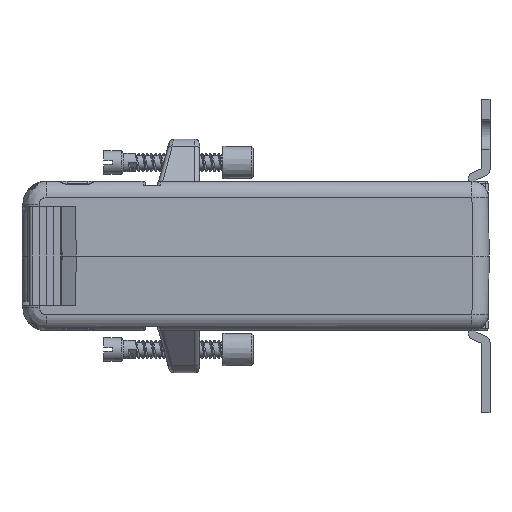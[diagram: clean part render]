
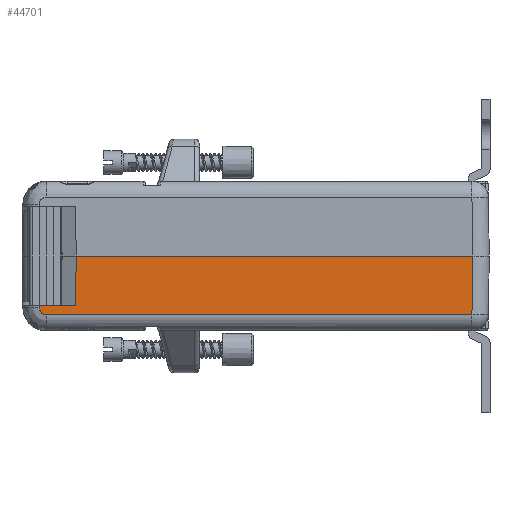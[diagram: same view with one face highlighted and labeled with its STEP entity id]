
A CAD part, left-side view. The second image highlights one B-rep face of the part: STEP entity #44701.
In plain terms, the highlighted planar face has unit normal (-1, 0, -0.018).
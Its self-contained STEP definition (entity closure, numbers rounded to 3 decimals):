
#991=PLANE('',#47472);
#3846=FACE_OUTER_BOUND('',#6345,.T.);
#6345=EDGE_LOOP('',(#30528,#30529,#30530,#30531,#30532,#30533,#30534));
#9736=(
BOUNDED_CURVE()
B_SPLINE_CURVE(3,(#80343,#80344,#80345,#80346,#80347,#80348,#80349,#80350,
#80351,#80352),.UNSPECIFIED.,.F.,.F.)
B_SPLINE_CURVE_WITH_KNOTS((4,2,2,2,4),(1.588,1.977,
2.365,2.753,3.142),.UNSPECIFIED.)
CURVE()
GEOMETRIC_REPRESENTATION_ITEM()
RATIONAL_B_SPLINE_CURVE((1.,1.,1.,1.,1.,1.,1.,1.,1.,1.))
REPRESENTATION_ITEM('')
);
#10230=LINE('',#77253,#14058);
#10252=LINE('',#77430,#14080);
#10529=LINE('',#79884,#14357);
#10578=LINE('',#80341,#14406);
#10579=LINE('',#80342,#14407);
#10580=LINE('',#80353,#14408);
#14058=VECTOR('',#51554,1000.);
#14080=VECTOR('',#51618,1000.);
#14357=VECTOR('',#52055,1000.);
#14406=VECTOR('',#52192,1000.);
#14407=VECTOR('',#52193,1000.);
#14408=VECTOR('',#52194,1000.);
#18314=VERTEX_POINT('',#77250);
#18315=VERTEX_POINT('',#77252);
#18339=VERTEX_POINT('',#77429);
#18767=VERTEX_POINT('',#79881);
#18768=VERTEX_POINT('',#79883);
#18846=VERTEX_POINT('',#80339);
#18847=VERTEX_POINT('',#80340);
#22830=EDGE_CURVE('',#18314,#18315,#10230,.T.);
#22864=EDGE_CURVE('',#18314,#18339,#10252,.T.);
#23310=EDGE_CURVE('',#18768,#18767,#10529,.T.);
#23413=EDGE_CURVE('',#18846,#18847,#10578,.T.);
#23414=EDGE_CURVE('',#18846,#18315,#10579,.T.);
#23415=EDGE_CURVE('',#18339,#18768,#9736,.T.);
#23416=EDGE_CURVE('',#18767,#18847,#10580,.T.);
#30528=ORIENTED_EDGE('',*,*,#23413,.F.);
#30529=ORIENTED_EDGE('',*,*,#23414,.T.);
#30530=ORIENTED_EDGE('',*,*,#22830,.F.);
#30531=ORIENTED_EDGE('',*,*,#22864,.T.);
#30532=ORIENTED_EDGE('',*,*,#23415,.T.);
#30533=ORIENTED_EDGE('',*,*,#23310,.T.);
#30534=ORIENTED_EDGE('',*,*,#23416,.T.);
#44701=ADVANCED_FACE('',(#3846),#991,.T.);
#47472=AXIS2_PLACEMENT_3D('',#80338,#52190,#52191);
#51554=DIRECTION('',(0.,-1.,0.));
#51618=DIRECTION('',(0.017,-0.017,-1.));
#52055=DIRECTION('',(0.,-1.,0.));
#52190=DIRECTION('center_axis',(-1.,0.,-0.017));
#52191=DIRECTION('ref_axis',(-0.017,0.,1.));
#52192=DIRECTION('',(0.,-1.,0.));
#52193=DIRECTION('',(0.017,0.017,-1.));
#52194=DIRECTION('',(-0.017,-0.017,1.));
#77250=CARTESIAN_POINT('',(-89.815,53.816,-10.6));
#77252=CARTESIAN_POINT('',(-89.815,46.07,-10.6));
#77253=CARTESIAN_POINT('',(-89.815,-37.442,-10.6));
#77429=CARTESIAN_POINT('',(-89.806,53.807,-11.087));
#77430=CARTESIAN_POINT('',(-89.808,53.808,-11.026));
#79881=CARTESIAN_POINT('',(-89.781,-38.781,-12.561));
#79883=CARTESIAN_POINT('',(-89.781,52.307,-12.561));
#79884=CARTESIAN_POINT('',(-89.781,-42.221,-12.561));
#80338=CARTESIAN_POINT('Origin',(-90.,-37.442,0.));
#80339=CARTESIAN_POINT('',(-90.,45.885,0.));
#80340=CARTESIAN_POINT('',(-90.,-39.001,0.));
#80341=CARTESIAN_POINT('',(-90.,-37.442,0.));
#80342=CARTESIAN_POINT('',(-90.025,45.859,1.454));
#80343=CARTESIAN_POINT('Ctrl Pts',(-89.806,53.807,-11.087));
#80344=CARTESIAN_POINT('Ctrl Pts',(-89.803,53.804,-11.281));
#80345=CARTESIAN_POINT('Ctrl Pts',(-89.8,53.762,-11.475));
#80346=CARTESIAN_POINT('Ctrl Pts',(-89.793,53.609,-11.832));
#80347=CARTESIAN_POINT('Ctrl Pts',(-89.791,53.497,-11.995));
#80348=CARTESIAN_POINT('Ctrl Pts',(-89.786,53.22,-12.267));
#80349=CARTESIAN_POINT('Ctrl Pts',(-89.784,53.055,-12.376));
#80350=CARTESIAN_POINT('Ctrl Pts',(-89.781,52.695,-12.523));
#80351=CARTESIAN_POINT('Ctrl Pts',(-89.781,52.501,-12.561));
#80352=CARTESIAN_POINT('Ctrl Pts',(-89.781,52.307,-12.561));
#80353=CARTESIAN_POINT('',(-90.001,-39.002,0.061));
